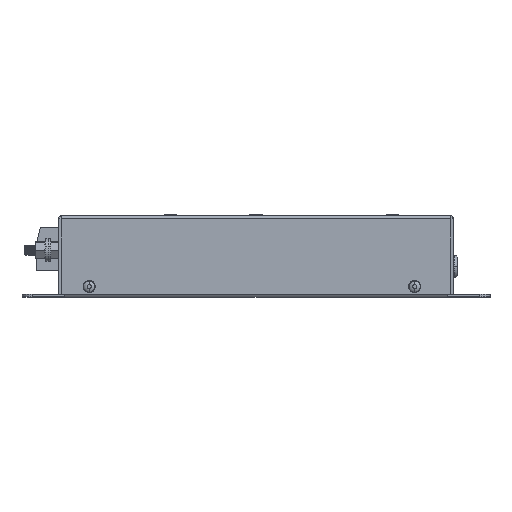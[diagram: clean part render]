
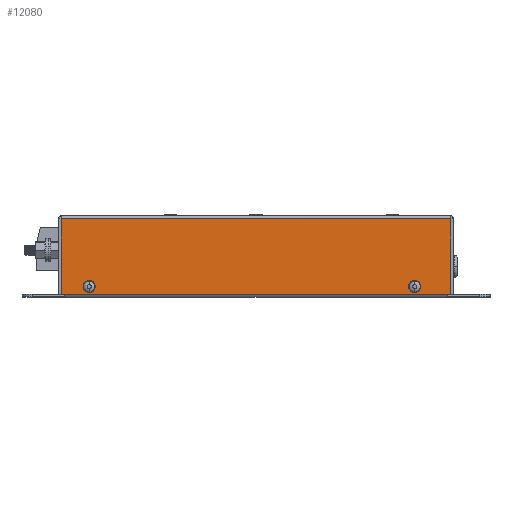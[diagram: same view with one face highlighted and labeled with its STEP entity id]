
A CAD part, top view. The second image highlights one B-rep face of the part: STEP entity #12080.
In plain terms, the highlighted planar face has unit normal (0, 0, 1).
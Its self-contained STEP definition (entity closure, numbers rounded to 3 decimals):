
#28 = AXIS2_PLACEMENT_3D ( 'NONE', #326, #11558, #9001 ) ;
#217 = CARTESIAN_POINT ( 'NONE',  ( 1.377, -37.6, 0. ) ) ;
#326 = CARTESIAN_POINT ( 'NONE',  ( 15., -33.8, 0. ) ) ;
#481 = ORIENTED_EDGE ( 'NONE', *, *, #7484, .T. ) ;
#1328 = AXIS2_PLACEMENT_3D ( 'NONE', #9634, #12019, #15902 ) ;
#1423 = VECTOR ( 'NONE', #2849, 1000. ) ;
#1478 = DIRECTION ( 'NONE',  ( 0., 1., 0. ) ) ;
#1566 = VERTEX_POINT ( 'NONE', #5183 ) ;
#1734 = FACE_BOUND ( 'NONE', #5010, .T. ) ;
#2006 = ORIENTED_EDGE ( 'NONE', *, *, #16104, .T. ) ;
#2131 = EDGE_CURVE ( 'NONE', #12781, #8308, #10705, .T. ) ;
#2274 = CIRCLE ( 'NONE', #1328, 2.75 ) ;
#2473 = EDGE_CURVE ( 'NONE', #8308, #12781, #14773, .T. ) ;
#2594 = LINE ( 'NONE', #2735, #1423 ) ;
#2735 = CARTESIAN_POINT ( 'NONE',  ( 1.377, 0., 0. ) ) ;
#2849 = DIRECTION ( 'NONE',  ( 0., 1., 0. ) ) ;
#2946 = CARTESIAN_POINT ( 'NONE',  ( 192.623, 0., 0. ) ) ;
#2989 = VERTEX_POINT ( 'NONE', #10502 ) ;
#3987 = EDGE_CURVE ( 'NONE', #15604, #11857, #7514, .T. ) ;
#4571 = DIRECTION ( 'NONE',  ( 0., -1., 0. ) ) ;
#4842 = FACE_OUTER_BOUND ( 'NONE', #14346, .T. ) ;
#5010 = EDGE_LOOP ( 'NONE', ( #15789, #13032 ) ) ;
#5183 = CARTESIAN_POINT ( 'NONE',  ( 192.623, -0.5, 0. ) ) ;
#5546 = ORIENTED_EDGE ( 'NONE', *, *, #9579, .F. ) ;
#5941 = DIRECTION ( 'NONE',  ( 0., -1., 0. ) ) ;
#6277 = CARTESIAN_POINT ( 'NONE',  ( 1.377, -0.5, 0. ) ) ;
#7207 = CARTESIAN_POINT ( 'NONE',  ( 17.75, -33.8, 0. ) ) ;
#7279 = DIRECTION ( 'NONE',  ( 0., 0., 1. ) ) ;
#7313 = VECTOR ( 'NONE', #1478, 1000. ) ;
#7419 = VERTEX_POINT ( 'NONE', #13120 ) ;
#7484 = EDGE_CURVE ( 'NONE', #7419, #2989, #2274, .T. ) ;
#7514 = LINE ( 'NONE', #8449, #15128 ) ;
#8097 = VERTEX_POINT ( 'NONE', #6277 ) ;
#8127 = CIRCLE ( 'NONE', #9605, 2.75 ) ;
#8308 = VERTEX_POINT ( 'NONE', #11328 ) ;
#8449 = CARTESIAN_POINT ( 'NONE',  ( 0., -37.6, 0. ) ) ;
#8487 = CARTESIAN_POINT ( 'NONE',  ( 0., -0.5, 0. ) ) ;
#8566 = VECTOR ( 'NONE', #13671, 1000. ) ;
#8580 = DIRECTION ( 'NONE',  ( 0., -1., 0. ) ) ;
#9001 = DIRECTION ( 'NONE',  ( 0., -1., 0. ) ) ;
#9198 = ORIENTED_EDGE ( 'NONE', *, *, #10423, .T. ) ;
#9260 = AXIS2_PLACEMENT_3D ( 'NONE', #14736, #7279, #8580 ) ;
#9579 = EDGE_CURVE ( 'NONE', #11857, #8097, #2594, .T. ) ;
#9605 = AXIS2_PLACEMENT_3D ( 'NONE', #11102, #10880, #5941 ) ;
#9634 = CARTESIAN_POINT ( 'NONE',  ( 175., -33.8, 0. ) ) ;
#9811 = DIRECTION ( 'NONE',  ( -1., 0., 0. ) ) ;
#9870 = FACE_BOUND ( 'NONE', #12523, .T. ) ;
#10423 = EDGE_CURVE ( 'NONE', #1566, #8097, #15215, .T. ) ;
#10502 = CARTESIAN_POINT ( 'NONE',  ( 177.75, -33.8, 0. ) ) ;
#10705 = CIRCLE ( 'NONE', #15857, 2.75 ) ;
#10880 = DIRECTION ( 'NONE',  ( 0., 0., -1. ) ) ;
#11102 = CARTESIAN_POINT ( 'NONE',  ( 175., -33.8, 0. ) ) ;
#11328 = CARTESIAN_POINT ( 'NONE',  ( 12.25, -33.8, 0. ) ) ;
#11558 = DIRECTION ( 'NONE',  ( 0., 0., -1. ) ) ;
#11597 = LINE ( 'NONE', #2946, #7313 ) ;
#11623 = ORIENTED_EDGE ( 'NONE', *, *, #13980, .T. ) ;
#11849 = CARTESIAN_POINT ( 'NONE',  ( 192.623, -37.6, 0. ) ) ;
#11857 = VERTEX_POINT ( 'NONE', #217 ) ;
#11985 = DIRECTION ( 'NONE',  ( 0., 0., -1. ) ) ;
#12019 = DIRECTION ( 'NONE',  ( 0., 0., -1. ) ) ;
#12080 = ADVANCED_FACE ( 'NONE', ( #1734, #9870, #4842 ), #14796, .T. ) ;
#12523 = EDGE_LOOP ( 'NONE', ( #11623, #481 ) ) ;
#12781 = VERTEX_POINT ( 'NONE', #7207 ) ;
#13032 = ORIENTED_EDGE ( 'NONE', *, *, #2473, .T. ) ;
#13120 = CARTESIAN_POINT ( 'NONE',  ( 172.25, -33.8, 0. ) ) ;
#13183 = CARTESIAN_POINT ( 'NONE',  ( 15., -33.8, 0. ) ) ;
#13294 = ORIENTED_EDGE ( 'NONE', *, *, #3987, .F. ) ;
#13671 = DIRECTION ( 'NONE',  ( -1., 0., 0. ) ) ;
#13980 = EDGE_CURVE ( 'NONE', #2989, #7419, #8127, .T. ) ;
#14346 = EDGE_LOOP ( 'NONE', ( #5546, #13294, #2006, #9198 ) ) ;
#14736 = CARTESIAN_POINT ( 'NONE',  ( 0., 0., 0. ) ) ;
#14773 = CIRCLE ( 'NONE', #28, 2.75 ) ;
#14796 = PLANE ( 'NONE',  #9260 ) ;
#15128 = VECTOR ( 'NONE', #9811, 1000. ) ;
#15215 = LINE ( 'NONE', #8487, #8566 ) ;
#15604 = VERTEX_POINT ( 'NONE', #11849 ) ;
#15789 = ORIENTED_EDGE ( 'NONE', *, *, #2131, .T. ) ;
#15857 = AXIS2_PLACEMENT_3D ( 'NONE', #13183, #11985, #4571 ) ;
#15902 = DIRECTION ( 'NONE',  ( 0., -1., 0. ) ) ;
#16104 = EDGE_CURVE ( 'NONE', #15604, #1566, #11597, .T. ) ;
